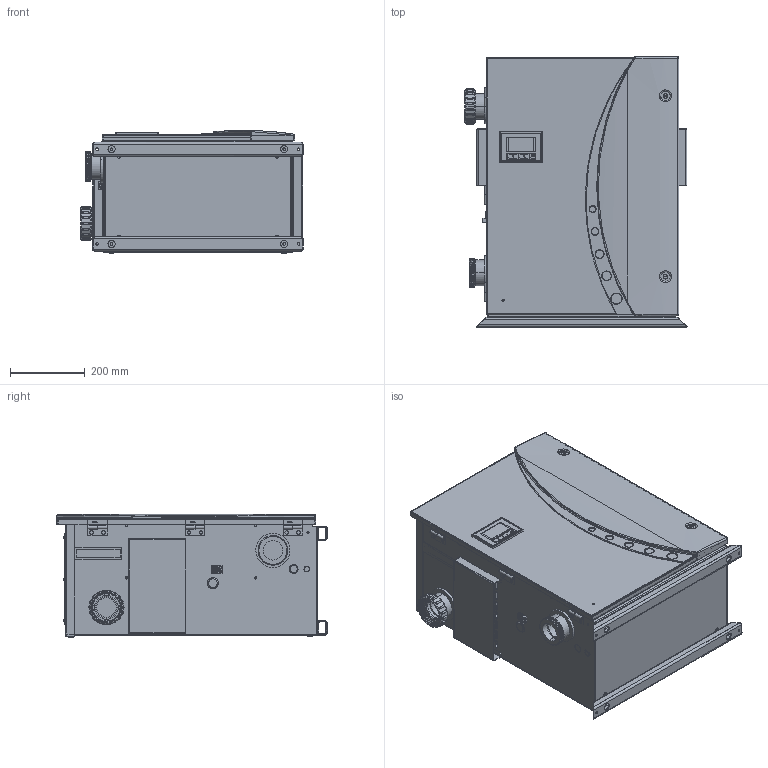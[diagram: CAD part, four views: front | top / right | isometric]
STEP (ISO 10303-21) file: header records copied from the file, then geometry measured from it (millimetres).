
FILE_DESCRIPTION (( 'STEP AP214' ), '1' );
FILE_NAME ('UVC-PRO-50,50D,100,100DGenerator.STEP', '2019-03-01T19:16:11', ( '' ), ( '' ), 'SwSTEP 2.0', 'SolidWorks 2017', '' );
FILE_SCHEMA (( 'AUTOMOTIVE_DESIGN' ));
Length unit declared in the file: inch
Products named in the file (1): UVC-PRO-50,50D,100,100DGenerator
Bounding box: 592.77 x 720.98 x 328.76 mm (x, y, z)
Surface area: 3692119.2 mm2 (no closed solid volume)
Topology: 0 solids, 120 shells, 759 faces, 6761 edges, 6026 vertices
Faces by surface type: cylinder 315, plane 288, bspline 63, sphere 48, torus 37, cone 8
Entity records: 81515 total; most frequent: CARTESIAN_POINT 23391, DIRECTION 9767, ORIENTED_EDGE 7896, EDGE_CURVE 6699, VERTEX_POINT 5998, VECTOR 3379, LINE 3379, AXIS2_PLACEMENT_3D 3194
